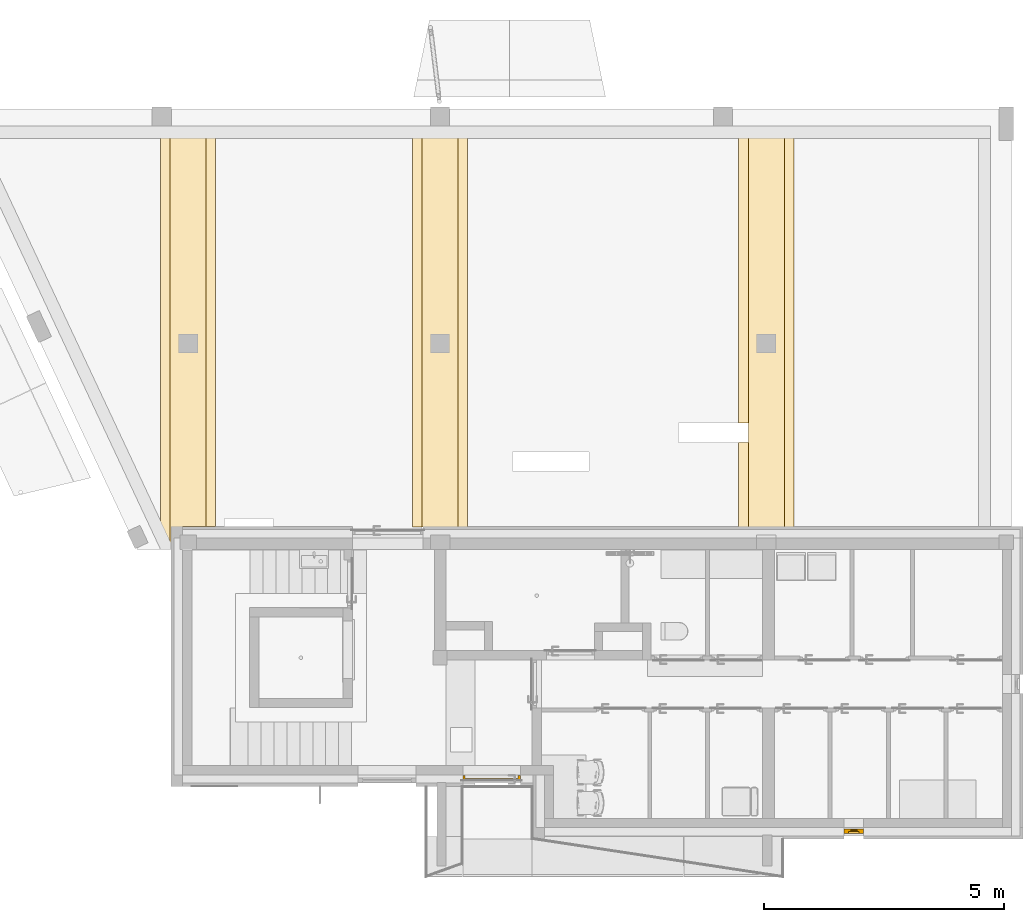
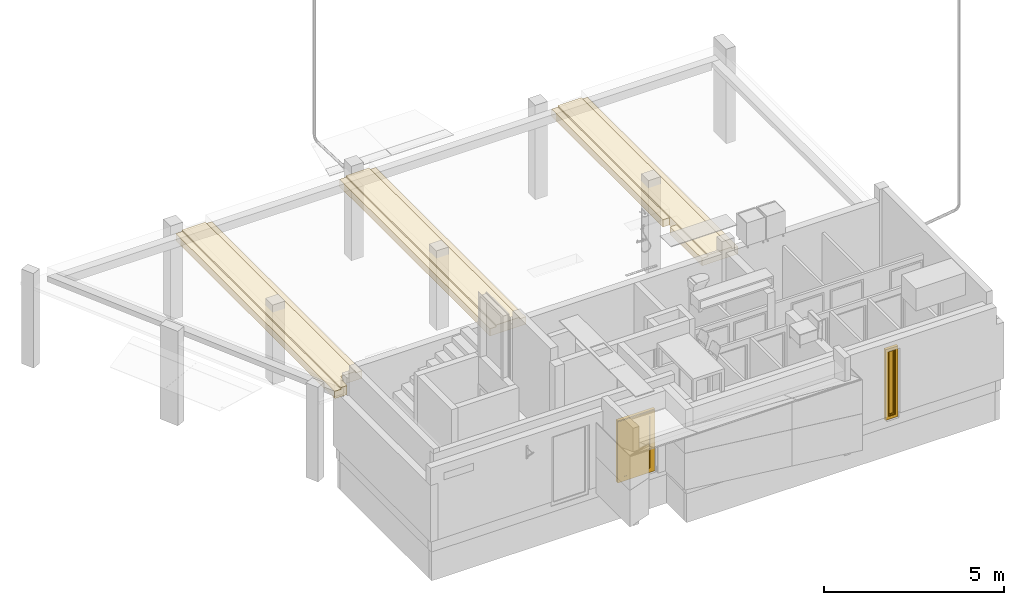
# One storey, part 9 of 55: 1 covering, 1 door, 1 window.
"""IFC2X3 building model written with IfcOpenShell, lengths in millimetres."""

from ifc_helpers import new_model, entity, si_unit, converted_unit, direction, frame, origin, place, context, subcontext, project, spatial, faceted_brep, source, transform, mapped, material, material_list, layer, layer_set, layer_usage, type_object, type_shapes, element, save


model = new_model("IFC2X3")

# Units and contexts
model_context = context("Model", 3, precision=0.01, world=origin(), true_north=direction((6.123233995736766e-17, 1.0)))
plan_context = context("Plan", 3, precision=0.01, world=origin(), true_north=direction((6.123233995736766e-17, 1.0)))
body_context = subcontext(model_context, "Body", "Model", "MODEL_VIEW")
ifc_project = project(units=[si_unit("LENGTHUNIT", "METRE", prefix="MILLI"), converted_unit("PLANEANGLEUNIT", "DEGREE", entity("IfcPlaneAngleMeasure", 0.017453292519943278), si_unit("PLANEANGLEUNIT", "RADIAN"), dimensions=[0, 0, 0, 0, 0, 0, 0]), si_unit("AREAUNIT", "SQUARE_METRE")], contexts=[model_context, plan_context])

# Site, building, storey
site_placement = place(None, origin())
site = spatial("IfcSite", under=ifc_project, at=site_placement, Name="Default", CompositionType="ELEMENT")
building_placement = place(site_placement, origin())
building = spatial("IfcBuilding", under=site, at=building_placement, CompositionType="ELEMENT")
storey_placement = place(building_placement, origin())
storey = spatial("IfcBuildingStorey", under=building, at=storey_placement, Name="1K", CompositionType="ELEMENT", Elevation=0.0)

# Door
ifc_material_1 = material(Name="_K. Klaas. Kirgas")
ifc_material_2 = material(Name="_K. Avatäited. Raam. Alumiinium")
ifc_material_list_1 = material_list([ifc_material_1, ifc_material_2])
door_style = type_object("IfcDoorStyle", Name="HR_Generic_Hinged_Single:Default. Klaasprofiiluks lävepakuga. 1200 x 2100 mm. Left", ConstructionType="NOTDEFINED", OperationType="NOTDEFINED", ParameterTakesPrecedence=False, Sizeable=False, material=ifc_material_list_1)
shared_shape_1 = source(origin(), body_context, "Body", "Brep", [
    faceted_brep([(1023.0, -995.0, 155.0), (177.0, -995.0, 155.0), (177.0, -995.0, 1920.0), (1023.0, -995.0, 1920.0), (1023.0, -1020.0, 155.0), (1023.0, -1020.0, 1920.0), (177.0, -1020.0, 1920.0), (177.0, -1020.0, 155.0)], [[[0, 1, 2, 3]], [[4, 5, 6, 7]], [[1, 0, 4, 7]], [[2, 1, 7, 6]], [[3, 2, 6, 5]], [[0, 3, 5, 4]]]),
    faceted_brep([(37.0, -1030.0, 2060.0), (37.0, -1030.0, 5.0), (1163.0, -1030.0, 5.0), (1163.0, -1030.0, 2060.0), (1023.0, -1030.0, 155.0), (177.0, -1030.0, 155.0), (177.0, -1030.0, 1920.0), (1023.0, -1030.0, 1920.0), (27.0, -990.0, 5.0), (27.0, -990.0, 2070.0), (1173.0, -990.0, 2070.0), (1173.0, -990.0, 5.0), (1023.0, -990.0, 155.0), (1023.0, -990.0, 1920.0), (177.0, -990.0, 1920.0), (177.0, -990.0, 155.0), (37.0, -1000.0, 2060.0), (37.0, -1000.0, 5.0), (27.0, -1000.0, 5.0), (1173.0, -1000.0, 5.0), (1163.0, -1000.0, 5.0), (1163.0, -1000.0, 2060.0), (27.0, -1000.0, 2070.0), (1173.0, -1000.0, 2070.0), (1023.0, -1000.0, 155.0), (177.0, -1000.0, 155.0), (177.0, -1000.0, 1920.0), (1023.0, -1000.0, 1920.0)], [[[0, 1, 2, 3], [4, 5, 6, 7]], [[8, 9, 10, 11], [12, 13, 14, 15]], [[1, 0, 16, 17]], [[2, 1, 17, 18, 8, 11, 19, 20]], [[3, 2, 20, 21]], [[0, 3, 21, 16]], [[22, 18, 17, 16, 21, 20, 19, 23]], [[10, 9, 22, 23]], [[11, 10, 23, 19]], [[9, 8, 18, 22]], [[5, 4, 24, 12, 15, 25]], [[6, 5, 25, 15, 14, 26]], [[7, 6, 26, 14, 13, 27]], [[4, 7, 27, 13, 12, 24]]]),
    faceted_brep([(1200.0, -1092.0, 0.0), (1150.0, -1092.0, 0.0), (1150.0, -1030.0, 0.0), (1165.0, -1030.0, 0.0), (1165.0, -1000.0, 0.0), (1200.0, -1000.0, 0.0), (1200.0, -1092.0, 2100.0), (0.0, -1092.0, 2100.0), (0.0, -1092.0, 0.0), (50.0, -1092.0, 0.0), (50.0, -1092.0, 2050.0), (1150.0, -1092.0, 2050.0), (1150.0, -1030.0, 2050.0), (35.0, -1030.0, 2065.0), (1165.0, -1030.0, 2065.0), (50.0, -1030.0, 2050.0), (50.0, -1030.0, 0.0), (35.0, -1030.0, 0.0), (1165.0, -1000.0, 2065.0), (0.0, -1000.0, 0.0), (0.0, -1000.0, 2100.0), (1200.0, -1000.0, 2100.0), (35.0, -1000.0, 2065.0), (35.0, -1000.0, 0.0)], [[[0, 1, 2, 3, 4, 5]], [[1, 0, 6, 7, 8, 9, 10, 11]], [[1, 11, 12, 2]], [[13, 14, 3, 2, 12, 15, 16, 17]], [[3, 14, 18, 4]], [[19, 20, 21, 5, 4, 18, 22, 23]], [[0, 5, 21, 6]], [[8, 19, 23, 17, 16, 9]], [[19, 8, 7, 20]], [[13, 17, 23, 22]], [[10, 9, 16, 15]], [[7, 6, 21, 20]], [[11, 10, 15, 12]], [[14, 13, 22, 18]]]),
])
type_shapes(door_style, [shared_shape_1])
door_placement = place(storey_placement, frame((6850.0, 598.0, 0.0), z_axis=(0.0, 0.0, 1.0), x_axis=(-1.0, 0.0, 0.0)))
element("IfcDoor", 1, at=door_placement, inside=storey, type_object=door_style, material=ifc_material_list_1, Name="HR_Generic_Hinged_Single:Default. Klaasprofiiluks lävepakuga. 1200 x 2100 mm. Left", ObjectType="HR_Generic_Hinged_Single:Default. Klaasprofiiluks lävepakuga. 1200 x 2100 mm. Left", OverallHeight=2130.0000000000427, OverallWidth=1260.000000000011, context=body_context, shape_type="MappedRepresentation", body=[
    mapped(shared_shape_1, transform((0.0, 0.0, 0.0), scale=1.0)),
])

# Window
ifc_material_3 = material(Name="_K. Klaas. Pakett")
ifc_material_4 = material(Name="_K. Avatäited. Raam. PVC. RAL9005")
ifc_material_list_2 = material_list([ifc_material_3, ifc_material_4])
window_style = type_object("IfcWindowStyle", Name="HR_Window_Generic_Rectangle_1x1:A-16.400x2400.P", ConstructionType="NOTDEFINED", OperationType="NOTDEFINED", ParameterTakesPrecedence=False, Sizeable=False, material=ifc_material_list_2)
shared_shape_2 = source(origin(), body_context, "Body", "Brep", [
    faceted_brep([(108.0, 540.0, 2292.0), (292.0, 540.0, 2292.0), (292.0, 540.0, 128.0), (108.0, 540.0, 128.0), (292.0, 515.0, 2292.0), (292.0, 515.0, 128.0), (108.0, 515.0, 128.0), (108.0, 515.0, 2292.0)], [[[0, 1, 2, 3]], [[2, 1, 4, 5]], [[3, 2, 5, 6]], [[0, 3, 6, 7]], [[7, 6, 5, 4]], [[1, 0, 7, 4]]]),
    faceted_brep([(292.0, 540.0, 2292.0), (292.0, 540.0, 128.0), (292.0, 515.0, 128.0), (292.0, 515.0, 2292.0), (342.0, 560.0, 2342.0), (58.0, 560.0, 2342.0), (58.0, 500.0, 2342.0), (342.0, 500.0, 2342.0), (128.0, 540.0, 2272.0), (128.0, 560.0, 2272.0), (272.0, 560.0, 2272.0), (272.0, 540.0, 2272.0), (128.0, 515.0, 2272.0), (128.0, 500.0, 2272.0), (128.0, 500.0, 148.0), (128.0, 515.0, 148.0), (342.0, 560.0, 78.0), (342.0, 500.0, 78.0), (58.0, 500.0, 78.0), (58.0, 560.0, 78.0), (272.0, 500.0, 2272.0), (272.0, 500.0, 148.0), (128.0, 560.0, 148.0), (272.0, 560.0, 148.0), (128.0, 540.0, 148.0), (272.0, 540.0, 148.0), (108.0, 540.0, 128.0), (108.0, 515.0, 128.0), (108.0, 540.0, 2292.0), (108.0, 515.0, 2292.0), (272.0, 515.0, 2272.0), (272.0, 515.0, 148.0)], [[[0, 1, 2, 3]], [[4, 5, 6, 7]], [[8, 9, 10, 11]], [[12, 13, 14, 15]], [[16, 17, 18, 19]], [[4, 7, 17, 16]], [[13, 20, 21, 14], [7, 6, 18, 17]], [[6, 5, 19, 18]], [[5, 4, 16, 19], [10, 9, 22, 23]], [[9, 8, 24, 22]], [[25, 23, 22, 24]], [[11, 10, 23, 25]], [[1, 26, 27, 2]], [[26, 28, 29, 27]], [[28, 26, 1, 0], [8, 11, 25, 24]], [[28, 0, 3, 29]], [[20, 30, 31, 21]], [[21, 31, 15, 14]], [[29, 3, 2, 27], [30, 12, 15, 31]], [[13, 12, 30, 20]]], outer=[[True], [True], [True], [True], [True], [True], [False, True], [True], [True, False], [True], [True], [True], [True], [True], [True, False], [True], [True], [True], [True, False], [True]]),
    faceted_brep([(342.0, 560.0, 78.0), (58.0, 560.0, 78.0), (58.0, 500.0, 78.0), (342.0, 500.0, 78.0), (58.0, 560.0, 2342.0), (58.0, 500.0, 2342.0), (342.0, 560.0, 2342.0), (342.0, 500.0, 2342.0), (88.0, 594.0, 108.0), (88.0, 594.0, 2312.0), (88.0, 560.0, 2312.0), (88.0, 560.0, 108.0), (312.0, 594.0, 108.0), (312.0, 560.0, 108.0), (312.0, 594.0, 2312.0), (312.0, 560.0, 2312.0), (0.0, 594.0, 2400.0), (400.0, 594.0, 2400.0), (400.0, 594.0, 30.0), (0.0, 594.0, 30.0), (400.0, 500.0, 2400.0), (0.0, 500.0, 2400.0), (0.0, 500.0, 30.0), (400.0, 500.0, 30.0), (0.0, 584.0, 30.0), (0.0, 584.0, 0.0), (0.0, 510.0, 0.0), (0.0, 510.0, 30.0), (400.0, 510.0, 30.0), (400.0, 510.0, 0.0), (400.0, 584.0, 0.0), (400.0, 584.0, 30.0)], [[[0, 1, 2, 3]], [[1, 4, 5, 2]], [[6, 0, 3, 7]], [[8, 9, 10, 11]], [[12, 8, 11, 13]], [[14, 12, 13, 15]], [[16, 17, 18, 19], [9, 8, 12, 14]], [[20, 21, 22, 23], [7, 3, 2, 5]], [[21, 16, 19, 24, 25, 26, 27, 22]], [[27, 28, 23, 22]], [[17, 20, 23, 28, 29, 30, 31, 18]], [[31, 24, 19, 18]], [[24, 31, 30, 25]], [[25, 30, 29, 26]], [[28, 27, 26, 29]], [[4, 6, 7, 5]], [[9, 14, 15, 10]], [[21, 20, 17, 16]], [[10, 15, 13, 11], [0, 6, 4, 1]]], outer=[[True], [True], [True], [True], [True], [True], [True, False], [True, False], [True], [True], [True], [True], [True], [True], [True], [True], [True], [True], [False, True]]),
])
type_shapes(window_style, [shared_shape_2])
window_placement = place(storey_placement, frame((14000.0, 1084.0, 0.0), z_axis=(0.0, 0.0, 1.0), x_axis=(-1.0, 0.0, 0.0)))
element("IfcWindow", 2, at=window_placement, inside=storey, type_object=window_style, material=ifc_material_list_2, Name="HR_Window_Generic_Rectangle_1x1:A-16.400x2400.P", ObjectType="HR_Window_Generic_Rectangle_1x1:A-16.400x2400.P", OverallHeight=2465.0000000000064, OverallWidth=400.0000000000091, context=body_context, shape_type="MappedRepresentation", body=[
    mapped(shared_shape_2, transform((0.0, 0.0, 0.0), scale=1.0)),
])

# Covering
ifc_material_5 = material(Name="_K. Soojustus. Mineraalvill")
ifc_layer_1 = layer(ifc_material_5, 300.0)
ifc_material_6 = material(Name="_K. Välisviimistlus. Alumiinium-komposiitplaat. Must")
ifc_layer_2 = layer(ifc_material_6, 4.0)
ifc_layer_set = layer_set([ifc_layer_1, ifc_layer_2], Name="Compound Ceiling:Parkla soojem lagi")
ifc_layer_usage = layer_usage(ifc_layer_set, "AXIS3", "NEGATIVE", 304.0)
covering_type = type_object("IfcCoveringType", Name="Compound Ceiling:Parkla soojem lagi", PredefinedType="CEILING")
covering_placement = place(storey_placement, frame((-650.0099993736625, 6405.000000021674, 2151.0002021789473)))
element("IfcCovering", 3, at=covering_placement, inside=storey, type_object=covering_type, material=ifc_layer_usage, Name="Compound Ceiling:Parkla soojem lagi", ObjectType="Compound Ceiling:Parkla soojem lagi", PredefinedType="CEILING", context=body_context, shape_type="Brep", body=[
    faceted_brep([(12250.009990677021, 8824.999999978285, 304.0), (12250.00999067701, 470.0, 304.0), (13000.009981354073, 470.0, 304.0), (13000.009981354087, 8824.999999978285, 304.0), (13200.009972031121, 8824.999999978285, 0.0), (12050.009990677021, 8824.999999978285, 0.0), (12050.009990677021, 8824.999999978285, 249.9995994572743), (12250.009990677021, 8824.999999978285, 249.9995994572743), (13000.009981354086, 8824.999999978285, 249.9995994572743), (13200.009972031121, 8824.999999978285, 249.9995994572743), (12050.009990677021, 2634.9999999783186, 0.0), (12050.009990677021, 2634.9999999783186, 249.9995994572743), (12050.009990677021, 470.0, 0.0), (13200.009972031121, 470.0, 0.0), (13200.009972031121, 470.0, 249.9995994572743), (13000.009981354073, 470.0, 249.9995994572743), (12250.009990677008, 470.0, 249.9995994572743), (12050.009990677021, 470.0, 249.9995994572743), (12250.009999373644, 2634.9999999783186, 249.99959945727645), (12250.009999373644, 2634.9999999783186, 0.0), (12250.009999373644, 2234.9999999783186, 0.0), (12250.00999067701, 2234.9999999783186, 249.9995994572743), (12050.009990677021, 2234.9999999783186, 0.0), (12050.009990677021, 2234.9999999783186, 249.99959945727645)], [[[0, 1, 2, 3]], [[4, 5, 6, 7, 0, 3, 8, 9]], [[5, 10, 11, 6]], [[12, 13, 14, 15, 2, 1, 16, 17]], [[13, 4, 9, 14]], [[0, 7, 18, 19, 20, 21, 16, 1]], [[10, 19, 18, 11]], [[20, 22, 23, 21]], [[8, 15, 14, 9]], [[15, 8, 3, 2]], [[18, 7, 6, 11]], [[16, 21, 23, 17]], [[22, 12, 17, 23]], [[5, 4, 13, 12, 22, 20, 19, 10]]]),
    faceted_brep([(0.0, 8824.999999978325, 0.0), (1149.999981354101, 8824.999999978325, 0.0), (1149.999981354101, 480.0, 0.0), (460.009999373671, 480.0, 0.0), (460.0099993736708, 300.0, 0.0), (400.00999937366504, 300.0, 0.0), (400.0099993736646, 0.0, 0.0), (0.0, 0.0, 0.0), (0.0, 8824.999999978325, 249.9995994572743), (200.0, 8824.999999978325, 249.9995994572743), (200.0, 8824.999999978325, 304.0), (949.9999813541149, 8824.999999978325, 304.0), (949.9999813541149, 8824.999999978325, 249.9995994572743), (1149.999981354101, 8824.999999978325, 249.9995994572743), (0.0, 0.0, 304.0), (0.0, 0.9809415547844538, 304.0), (0.0, 0.9809415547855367, 249.9995994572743), (400.0099993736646, 0.0, 304.0), (200.0, 0.0, 304.0), (200.0, 0.0, 249.9995994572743), (0.45981927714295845, 0.0, 249.9995994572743), (0.4598192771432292, 0.0, 304.0), (400.00999937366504, 300.0, 304.0), (460.0099993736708, 300.0, 304.0), (460.009999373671, 480.0, 304.0), (1149.999981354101, 480.0, 249.9995994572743), (949.9999813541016, 480.0, 249.9995994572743), (949.9999813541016, 480.0, 304.0)], [[[0, 1, 2, 3, 4, 5, 6, 7]], [[1, 0, 8, 9, 10, 11, 12, 13]], [[0, 7, 14, 15, 16, 8]], [[7, 6, 17, 18, 19, 20, 21, 14]], [[22, 17, 6, 5]], [[23, 22, 5, 4]], [[24, 23, 4, 3]], [[3, 2, 25, 26, 27, 24]], [[2, 1, 13, 25]], [[9, 19, 18, 10]], [[20, 16, 15, 21]], [[26, 12, 11, 27]], [[12, 26, 25, 13]], [[19, 9, 8, 16, 20]], [[17, 22, 23, 24, 27, 11, 10, 18]], [[15, 14, 21]]]),
    faceted_brep([(6400.009980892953, 8824.999999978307, 0.0), (5250.009999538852, 8824.999999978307, 0.0), (5250.009999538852, 8824.999999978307, 249.9995994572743), (5450.009999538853, 8824.999999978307, 249.9995994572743), (5450.009999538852, 8824.999999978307, 304.0), (6200.0099813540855, 8824.999999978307, 304.0), (6200.0099813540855, 8824.999999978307, 249.9995994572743), (6400.009980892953, 8824.999999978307, 249.9995994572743), (5250.009999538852, 470.0, 0.0), (5250.009999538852, 470.0, 249.9995994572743), (6400.009980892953, 470.0, 0.0), (6400.009980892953, 470.0, 249.9995994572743), (6200.009981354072, 470.0, 249.9995994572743), (6200.009981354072, 470.0, 304.0), (5450.00999953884, 470.0, 304.0), (5450.00999953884, 470.0, 249.9995994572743)], [[[0, 1, 2, 3, 4, 5, 6, 7]], [[1, 8, 9, 2]], [[8, 10, 11, 12, 13, 14, 15, 9]], [[10, 0, 7, 11]], [[3, 15, 14, 4]], [[12, 6, 5, 13]], [[6, 12, 11, 7]], [[15, 3, 2, 9]], [[1, 0, 10, 8]], [[5, 4, 14, 13]]]),
])

save(model, "model.ifc")
